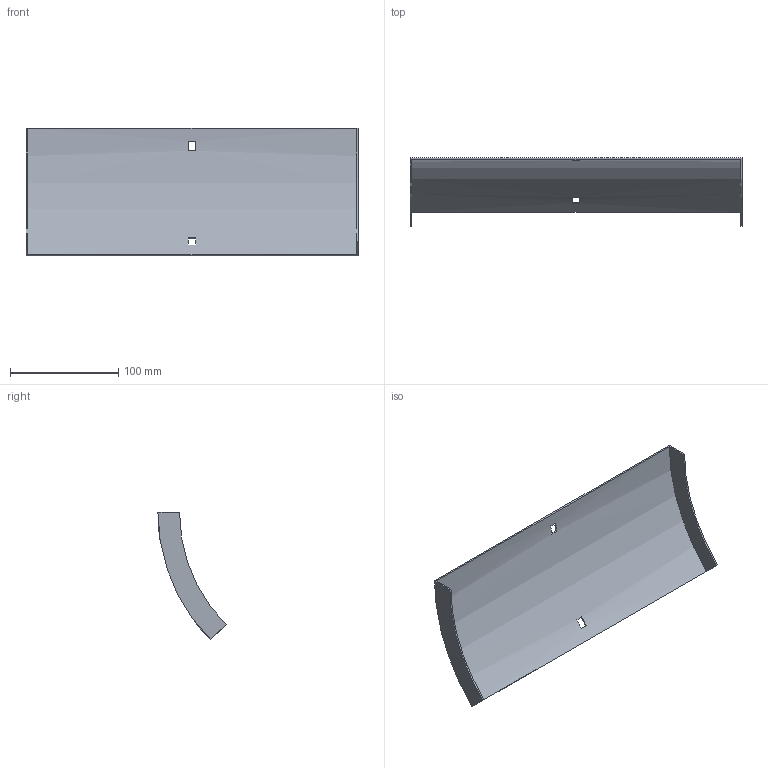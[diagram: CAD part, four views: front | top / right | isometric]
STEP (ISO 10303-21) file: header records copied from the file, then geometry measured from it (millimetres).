
FILE_DESCRIPTION (( 'STEP AP214' ), '1' );
FILE_NAME ('34N1H300.step', '2025-02-21T09:15:31', ( '' ), ( '' ), 'SwSTEP 2.0', 'SolidWorks 2023', '' );
FILE_SCHEMA (( 'AUTOMOTIVE_DESIGN' ));
Length unit declared in the file: millimetre
Products named in the file (1): 34N1H300
Bounding box: 307 x 63.06 x 118.09 mm (x, y, z)
Volume: 66763.1 mm3; surface area: 90491.1 mm2
Topology: 1 solids, 1 shells, 18 faces, 48 edges, 32 vertices
Faces by surface type: plane 14, cylinder 4
Entity records: 599 total; most frequent: DIRECTION 102, CARTESIAN_POINT 99, ORIENTED_EDGE 96, EDGE_CURVE 48, AXIS2_PLACEMENT_3D 35, VERTEX_POINT 32, LINE 32, VECTOR 32
